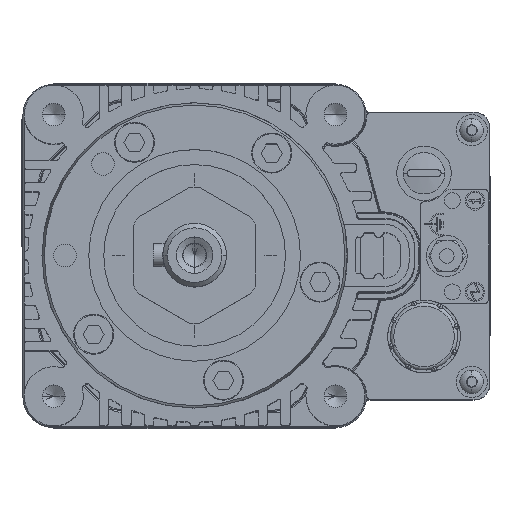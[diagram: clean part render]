
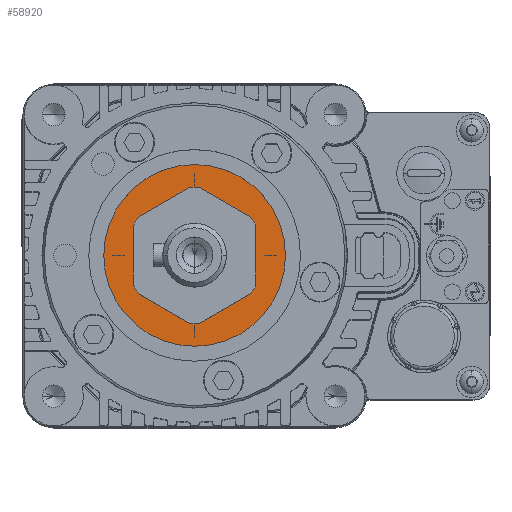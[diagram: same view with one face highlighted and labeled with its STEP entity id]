
A CAD part, top view. The second image highlights one B-rep face of the part: STEP entity #58920.
In plain terms, the highlighted planar face has unit normal (0, 0, 1).
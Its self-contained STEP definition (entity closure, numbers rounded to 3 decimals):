
#2255 = DIRECTION ( 'NONE',  ( 0., 0., -1. ) ) ;
#2316 = DIRECTION ( 'NONE',  ( 1., 0., 0. ) ) ;
#3353 = CARTESIAN_POINT ( 'NONE',  ( 13.375, 0., 162.6 ) ) ;
#5839 = DIRECTION ( 'NONE',  ( 1., 0., 0. ) ) ;
#5986 = ORIENTED_EDGE ( 'NONE', *, *, #37654, .F. ) ;
#7559 = DIRECTION ( 'NONE',  ( 0., 0., 1. ) ) ;
#12089 = VERTEX_POINT ( 'NONE', #74614 ) ;
#15067 = CARTESIAN_POINT ( 'NONE',  ( 0., 0., 162.6 ) ) ;
#15268 = CARTESIAN_POINT ( 'NONE',  ( 0., 0., 162.6 ) ) ;
#17379 = AXIS2_PLACEMENT_3D ( 'NONE', #15268, #7559, #46595 ) ;
#19857 = FACE_OUTER_BOUND ( 'NONE', #45952, .T. ) ;
#22679 = EDGE_CURVE ( 'NONE', #70410, #12089, #100564, .T. ) ;
#24331 = DIRECTION ( 'NONE',  ( 1., 0., 0. ) ) ;
#29011 = CIRCLE ( 'NONE', #79960, 13.375 ) ;
#29178 = CARTESIAN_POINT ( 'NONE',  ( -13.375, 0., 162.6 ) ) ;
#37654 = EDGE_CURVE ( 'NONE', #12089, #70410, #71597, .T. ) ;
#44886 = DIRECTION ( 'NONE',  ( 0., 0., 1. ) ) ;
#45952 = EDGE_LOOP ( 'NONE', ( #46725, #5986 ) ) ;
#46595 = DIRECTION ( 'NONE',  ( 1., 0., 0. ) ) ;
#46725 = ORIENTED_EDGE ( 'NONE', *, *, #22679, .F. ) ;
#47168 = ORIENTED_EDGE ( 'NONE', *, *, #97862, .F. ) ;
#51264 = PLANE ( 'NONE',  #89281 ) ;
#58920 = ADVANCED_FACE ( 'NONE', ( #90365, #19857 ), #51264, .T. ) ;
#62988 = CARTESIAN_POINT ( 'NONE',  ( 0., 0., 162.6 ) ) ;
#68263 = DIRECTION ( 'NONE',  ( 0., 0., 1. ) ) ;
#68754 = DIRECTION ( 'NONE',  ( 1., 0., 0. ) ) ;
#70410 = VERTEX_POINT ( 'NONE', #86799 ) ;
#71080 = AXIS2_PLACEMENT_3D ( 'NONE', #74381, #96999, #2316 ) ;
#71597 = CIRCLE ( 'NONE', #81432, 20.125 ) ;
#74381 = CARTESIAN_POINT ( 'NONE',  ( 0., 0., 162.6 ) ) ;
#74614 = CARTESIAN_POINT ( 'NONE',  ( 20.125, 0., 162.6 ) ) ;
#75475 = CARTESIAN_POINT ( 'NONE',  ( 0., 20.135, 162.6 ) ) ;
#79960 = AXIS2_PLACEMENT_3D ( 'NONE', #15067, #44886, #5839 ) ;
#80566 = VERTEX_POINT ( 'NONE', #3353 ) ;
#81432 = AXIS2_PLACEMENT_3D ( 'NONE', #62988, #2255, #24331 ) ;
#84104 = ORIENTED_EDGE ( 'NONE', *, *, #87377, .F. ) ;
#86799 = CARTESIAN_POINT ( 'NONE',  ( -20.125, 0., 162.6 ) ) ;
#87126 = EDGE_LOOP ( 'NONE', ( #84104, #47168 ) ) ;
#87377 = EDGE_CURVE ( 'NONE', #93970, #80566, #93013, .T. ) ;
#89281 = AXIS2_PLACEMENT_3D ( 'NONE', #75475, #68263, #68754 ) ;
#90365 = FACE_BOUND ( 'NONE', #87126, .T. ) ;
#93013 = CIRCLE ( 'NONE', #17379, 13.375 ) ;
#93970 = VERTEX_POINT ( 'NONE', #29178 ) ;
#96999 = DIRECTION ( 'NONE',  ( 0., 0., -1. ) ) ;
#97862 = EDGE_CURVE ( 'NONE', #80566, #93970, #29011, .T. ) ;
#100564 = CIRCLE ( 'NONE', #71080, 20.125 ) ;
